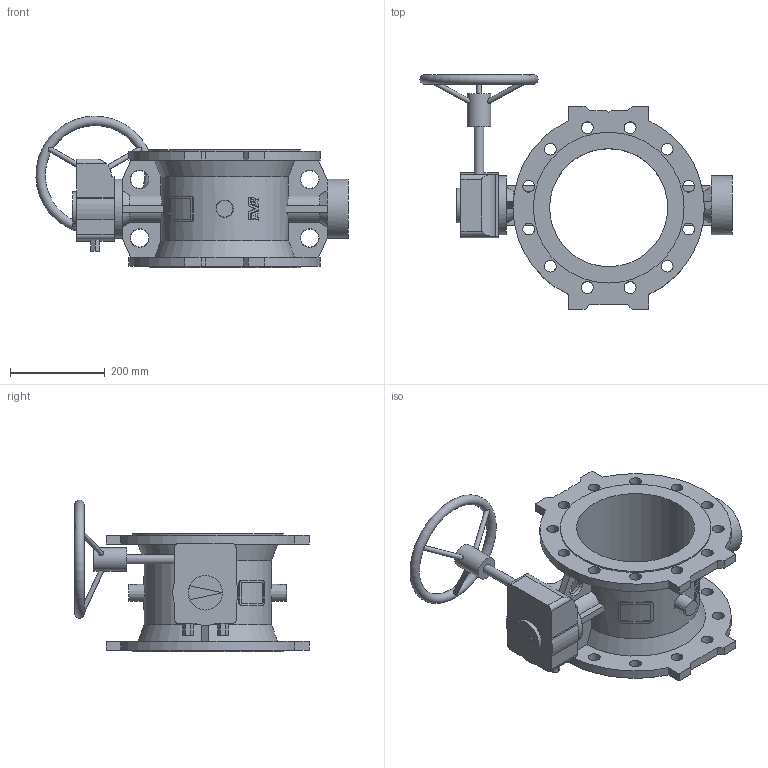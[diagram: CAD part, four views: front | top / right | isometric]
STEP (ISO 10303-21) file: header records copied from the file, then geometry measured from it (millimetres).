
FILE_DESCRIPTION (( 'STEP AP203' ), '1' );
FILE_NAME ('O_756_1_DN250_0XX00_AA0_step.step', '2016-03-04T11:26:54', ( 'Windows User' ), ( 'AVK' ), 'SwSTEP 2.0', 'SolidWorks 2012', '' );
FILE_SCHEMA (( 'CONFIG_CONTROL_DESIGN' ));
Length unit declared in the file: millimetre
Products named in the file (1): O_756_1_DN250_0XX00_AA0_step
Bounding box: 660.36 x 496.5 x 320.96 mm (x, y, z)
Volume: 9077125.8 mm3; surface area: 1028957.2 mm2
Topology: 1 solids, 1 shells, 359 faces, 1029 edges, 695 vertices
Faces by surface type: plane 180, bspline 86, cylinder 70, cone 22, torus 1
Full cylindrical faces by diameter (mm): 10 x3, 20 x1, 25 x24, 50 x1, 73 x1, 125 x2, 250 x1, 319 x2
Entity records: 16145 total; most frequent: CARTESIAN_POINT 7592, ORIENTED_EDGE 1896, DIRECTION 1382, EDGE_CURVE 948, VERTEX_POINT 660, LINE 506, VECTOR 506, EDGE_LOOP 490
